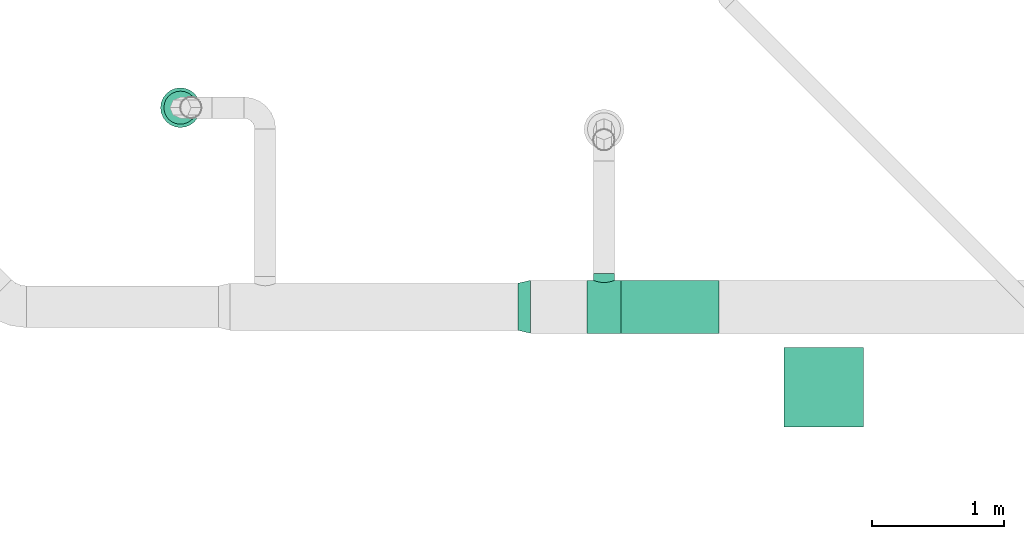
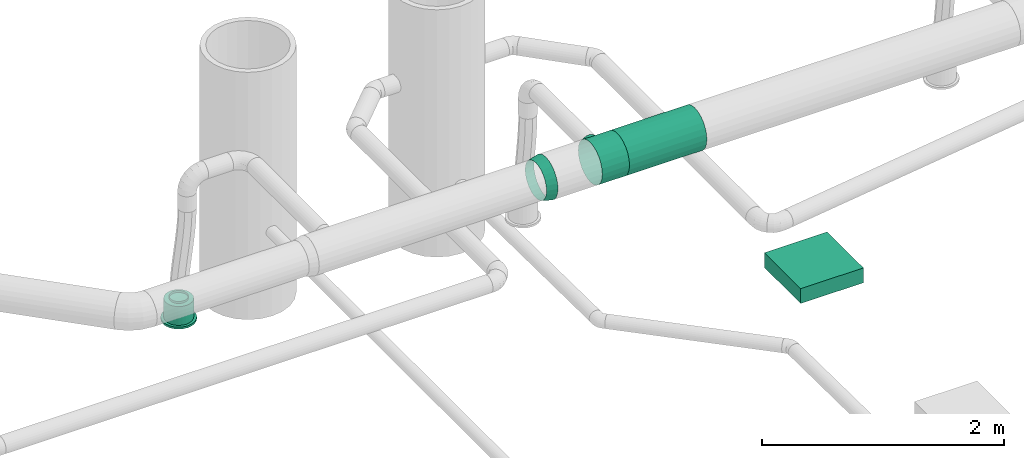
# One storey, part 145 of 374: 2 flow fittings, 1 distribution element, 1 flow segment, 1 flow terminal.
"""IFC2X3 building model written with IfcOpenShell, lengths in metres."""

from ifc_helpers import new_model, si_unit, direction, frame, frame_2d, origin, place, context, subcontext, project, spatial, rectangle, extrude, open_shell, surface_model, source, transform, mapped, element, save


model = new_model("IFC2X3")

# Units and contexts
model_context = context("Model", 3, precision=1e-05, world=origin(), true_north=direction((-0.4480736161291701, 0.8939966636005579)))
body_context = subcontext(model_context, "Body", "Model", "MODEL_VIEW")
ifc_project = project(units=[si_unit("LENGTHUNIT", "METRE"), si_unit("AREAUNIT", "SQUARE_METRE"), si_unit("VOLUMEUNIT", "CUBIC_METRE"), si_unit("PLANEANGLEUNIT", "RADIAN"), si_unit("THERMODYNAMICTEMPERATUREUNIT", "KELVIN"), si_unit("MASSUNIT", "GRAM", prefix="KILO"), si_unit("TIMEUNIT", "SECOND")], contexts=[model_context])

# Site, building, storey
site_placement = place(None, origin())
site = spatial("IfcSite", under=ifc_project, at=site_placement, Name="Site 1", CompositionType="ELEMENT")
building_placement = place(site_placement, origin())
building = spatial("IfcBuilding", under=site, at=building_placement, Name="Undefined", CompositionType="ELEMENT")
storey_placement = place(building_placement, origin())
storey = spatial("IfcBuildingStorey", under=building, at=storey_placement, Name="Rez de chauss\x8ee", CompositionType="ELEMENT", Elevation=0.0)

# Flow terminal
shared_shape_1 = source(origin(), body_context, "Body", "SurfaceModel", [
    surface_model("IfcFaceBasedSurfaceModel", [(0.0, 0.0, 0.0), (0.03915785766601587, 0.0, 0.0), (0.03915785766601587, 0.020000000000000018, 0.0), (3.552713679e-15, 0.020000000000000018, 0.0), (0.07698144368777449, 0.0, -0.010134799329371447), (0.07698144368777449, 0.020000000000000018, -0.010134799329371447), (0.11089314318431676, 0.0, -0.02971372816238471), (0.11089314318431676, 0.020000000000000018, -0.02971372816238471), (0.13858192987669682, 0.0, -0.05740251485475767), (0.13858192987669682, 0.020000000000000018, -0.05740251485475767), (0.15816085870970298, 0.0, -0.09131421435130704), (0.15816085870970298, 0.020000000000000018, -0.09131421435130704), (0.16829565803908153, 0.0, -0.12913780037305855), (0.16829565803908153, 0.020000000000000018, -0.12913780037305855), (0.16829565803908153, 0.0, -0.16829565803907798), (0.16829565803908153, 0.020000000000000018, -0.16829565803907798), (0.15816085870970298, 0.0, -0.20611924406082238), (0.15816085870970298, 0.020000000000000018, -0.20611924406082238), (0.13858192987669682, 0.0, -0.24003094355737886), (0.13858192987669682, 0.020000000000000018, -0.24003094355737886), (0.11089314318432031, 0.0, -0.2677197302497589), (0.11089314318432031, 0.020000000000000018, -0.2677197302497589), (0.07698144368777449, 0.0, -0.2872986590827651), (0.07698144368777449, 0.020000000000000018, -0.2872986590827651), (0.039157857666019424, 0.0, -0.29743345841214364), (0.039157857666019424, 0.020000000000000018, -0.29743345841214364), (3.552713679e-15, 0.0, -0.29743345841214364), (3.552713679e-15, 0.020000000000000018, -0.29743345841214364), (-0.03782358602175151, 0.0, -0.2872986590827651), (-0.03782358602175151, 0.020000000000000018, -0.2872986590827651), (-0.07173528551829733, 0.0, -0.2677197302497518), (-0.07173528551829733, 0.020000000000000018, -0.2677197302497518), (-0.0994240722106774, 0.0, -0.24003094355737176), (-0.0994240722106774, 0.020000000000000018, -0.24003094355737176), (-0.11900300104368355, 0.0, -0.2061192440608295), (-0.11900300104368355, 0.020000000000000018, -0.2061192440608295), (-0.1291378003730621, 0.0, -0.16829565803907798), (-0.1291378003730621, 0.020000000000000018, -0.16829565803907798), (-0.1291378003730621, 0.0, -0.12913780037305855), (-0.1291378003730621, 0.020000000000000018, -0.12913780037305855), (-0.11900300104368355, 0.0, -0.09131421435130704), (-0.11900300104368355, 0.020000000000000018, -0.09131421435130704), (-0.0994240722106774, 0.0, -0.05740251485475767), (-0.0994240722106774, 0.020000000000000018, -0.05740251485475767), (-0.07173528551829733, 0.0, -0.029713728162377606), (-0.07173528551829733, 0.020000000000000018, -0.029713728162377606), (-0.03782358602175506, 0.0, -0.010134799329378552), (-0.03782358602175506, 0.020000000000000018, -0.010134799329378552), (0.019578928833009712, 0.0, -0.14871672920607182), (0.019578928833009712, 0.020000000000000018, -0.14871672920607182), (0.003263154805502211, 0.020000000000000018, -0.02478612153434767), (0.035894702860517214, 0.020000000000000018, -0.02478612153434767), (0.035894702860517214, 0.20999999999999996, -0.02478612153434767), (0.003263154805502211, 0.20999999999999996, -0.02478612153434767), (0.06741435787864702, 0.020000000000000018, -0.033231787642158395), (0.06741435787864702, 0.20999999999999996, -0.033231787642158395), (0.0956741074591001, 0.020000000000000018, -0.04954756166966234), (0.0956741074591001, 0.20999999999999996, -0.04954756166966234), (0.11874809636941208, 0.020000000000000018, -0.07262155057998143), (0.11874809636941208, 0.20999999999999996, -0.07262155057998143), (0.13506387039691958, 0.020000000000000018, -0.10088130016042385), (0.13506387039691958, 0.20999999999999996, -0.10088130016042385), (0.1435095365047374, 0.020000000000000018, -0.13240095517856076), (0.1435095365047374, 0.20999999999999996, -0.13240095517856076), (0.1435095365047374, 0.020000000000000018, -0.16503250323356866), (0.1435095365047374, 0.20999999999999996, -0.16503250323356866), (0.13506387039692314, 0.020000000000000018, -0.19655215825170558), (0.13506387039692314, 0.20999999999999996, -0.19655215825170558), (0.11874809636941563, 0.020000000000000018, -0.2248119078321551), (0.11874809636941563, 0.20999999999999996, -0.2248119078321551), (0.09567410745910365, 0.020000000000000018, -0.24788589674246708), (0.09567410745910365, 0.20999999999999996, -0.24788589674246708), (0.06741435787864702, 0.020000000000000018, -0.26420167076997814), (0.06741435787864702, 0.20999999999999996, -0.26420167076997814), (0.035894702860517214, 0.020000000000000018, -0.27264733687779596), (0.035894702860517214, 0.20999999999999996, -0.27264733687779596), (0.0032631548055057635, 0.020000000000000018, -0.27264733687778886), (0.0032631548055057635, 0.20999999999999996, -0.27264733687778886), (-0.028256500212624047, 0.020000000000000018, -0.26420167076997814), (-0.028256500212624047, 0.20999999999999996, -0.26420167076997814), (-0.05651624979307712, 0.020000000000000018, -0.2478858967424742), (-0.05651624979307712, 0.20999999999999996, -0.2478858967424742), (-0.07959023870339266, 0.020000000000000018, -0.2248119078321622), (-0.07959023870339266, 0.20999999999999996, -0.2248119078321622), (-0.09590601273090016, 0.020000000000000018, -0.19655215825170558), (-0.09590601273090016, 0.20999999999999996, -0.19655215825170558), (-0.10435167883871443, 0.020000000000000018, -0.16503250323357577), (-0.10435167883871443, 0.20999999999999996, -0.16503250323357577), (-0.10435167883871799, 0.020000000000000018, -0.13240095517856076), (-0.10435167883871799, 0.20999999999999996, -0.13240095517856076), (-0.09590601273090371, 0.020000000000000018, -0.10088130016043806), (-0.09590601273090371, 0.20999999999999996, -0.10088130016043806), (-0.07959023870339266, 0.020000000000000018, -0.07262155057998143), (-0.07959023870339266, 0.20999999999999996, -0.07262155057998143), (-0.056516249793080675, 0.020000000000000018, -0.04954756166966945), (-0.056516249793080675, 0.20999999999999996, -0.04954756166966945), (-0.028256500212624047, 0.020000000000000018, -0.033231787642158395), (-0.028256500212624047, 0.20999999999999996, -0.033231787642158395), (0.019578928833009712, 0.20999999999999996, -0.14871672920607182), (0.009136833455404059, 0.20999999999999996, -0.06940114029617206), (0.030021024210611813, 0.20999999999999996, -0.06940114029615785), (0.030021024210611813, 0.22999999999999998, -0.06940114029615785), (0.009136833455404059, 0.22999999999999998, -0.06940114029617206), (0.05019360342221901, 0.20999999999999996, -0.07480636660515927), (0.05019360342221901, 0.22999999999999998, -0.07480636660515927), (0.06827984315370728, 0.20999999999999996, -0.08524846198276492), (0.06827984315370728, 0.22999999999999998, -0.08524846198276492), (0.0830471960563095, 0.20999999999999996, -0.10001581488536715), (0.0830471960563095, 0.22999999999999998, -0.10001581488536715), (0.0934892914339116, 0.20999999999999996, -0.11810205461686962), (0.0934892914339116, 0.22999999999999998, -0.11810205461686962), (0.09889451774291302, 0.20999999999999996, -0.13827463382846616), (0.09889451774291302, 0.22999999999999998, -0.13827463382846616), (0.09889451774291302, 0.20999999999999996, -0.15915882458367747), (0.09889451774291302, 0.22999999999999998, -0.15915882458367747), (0.09348929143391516, 0.20999999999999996, -0.179331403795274), (0.09348929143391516, 0.22999999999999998, -0.179331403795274), (0.0830471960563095, 0.20999999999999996, -0.19741764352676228), (0.0830471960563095, 0.22999999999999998, -0.19741764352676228), (0.06827984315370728, 0.20999999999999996, -0.2121849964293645), (0.06827984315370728, 0.22999999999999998, -0.2121849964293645), (0.05019360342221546, 0.20999999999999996, -0.22262709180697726), (0.05019360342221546, 0.22999999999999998, -0.22262709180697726), (0.030021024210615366, 0.20999999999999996, -0.22803231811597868), (0.030021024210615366, 0.22999999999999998, -0.22803231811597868), (0.009136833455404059, 0.20999999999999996, -0.22803231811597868), (0.009136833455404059, 0.22999999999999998, -0.22803231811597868), (-0.011035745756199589, 0.20999999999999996, -0.22262709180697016), (-0.011035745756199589, 0.22999999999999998, -0.22262709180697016), (-0.0291219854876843, 0.20999999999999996, -0.2121849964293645), (-0.0291219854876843, 0.22999999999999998, -0.2121849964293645), (-0.043889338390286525, 0.20999999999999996, -0.19741764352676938), (-0.043889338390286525, 0.22999999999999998, -0.19741764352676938), (-0.05433143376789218, 0.20999999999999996, -0.17933140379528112), (-0.05433143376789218, 0.22999999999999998, -0.17933140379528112), (-0.05973666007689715, 0.20999999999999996, -0.15915882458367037), (-0.05973666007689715, 0.22999999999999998, -0.15915882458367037), (-0.0597366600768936, 0.20999999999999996, -0.13827463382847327), (-0.0597366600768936, 0.22999999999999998, -0.13827463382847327), (-0.05433143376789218, 0.20999999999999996, -0.11810205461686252), (-0.05433143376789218, 0.22999999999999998, -0.11810205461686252), (-0.043889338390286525, 0.20999999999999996, -0.10001581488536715), (-0.043889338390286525, 0.22999999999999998, -0.10001581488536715), (-0.02912198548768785, 0.20999999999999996, -0.08524846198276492), (-0.02912198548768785, 0.22999999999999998, -0.08524846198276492), (-0.011035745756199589, 0.20999999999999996, -0.07480636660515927), (-0.011035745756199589, 0.22999999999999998, -0.07480636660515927)], [open_shell([[[0, 1, 2, 3]], [[1, 4, 5, 2]], [[4, 6, 7, 5]], [[6, 8, 9, 7]], [[8, 10, 11, 9]], [[10, 12, 13, 11]], [[12, 14, 15, 13]], [[14, 16, 17, 15]], [[16, 18, 19, 17]], [[18, 20, 21, 19]], [[20, 22, 23, 21]], [[22, 24, 25, 23]], [[24, 26, 27, 25]], [[26, 28, 29, 27]], [[28, 30, 31, 29]], [[30, 32, 33, 31]], [[32, 34, 35, 33]], [[34, 36, 37, 35]], [[36, 38, 39, 37]], [[38, 40, 41, 39]], [[40, 42, 43, 41]], [[42, 44, 45, 43]], [[44, 46, 47, 45]], [[46, 0, 3, 47]], [[48, 1, 0]], [[48, 4, 1]], [[48, 6, 4]], [[48, 8, 6]], [[48, 10, 8]], [[48, 12, 10]], [[48, 14, 12]], [[48, 16, 14]], [[48, 18, 16]], [[48, 20, 18]], [[48, 22, 20]], [[48, 24, 22]], [[48, 26, 24]], [[48, 28, 26]], [[48, 30, 28]], [[48, 32, 30]], [[48, 34, 32]], [[48, 36, 34]], [[48, 38, 36]], [[48, 40, 38]], [[48, 42, 40]], [[48, 44, 42]], [[48, 46, 44]], [[48, 0, 46]], [[49, 47, 3]], [[49, 45, 47]], [[49, 43, 45]], [[49, 41, 43]], [[49, 39, 41]], [[49, 37, 39]], [[49, 35, 37]], [[49, 33, 35]], [[49, 31, 33]], [[49, 29, 31]], [[49, 27, 29]], [[49, 25, 27]], [[49, 23, 25]], [[49, 21, 23]], [[49, 19, 21]], [[49, 17, 19]], [[49, 15, 17]], [[49, 13, 15]], [[49, 11, 13]], [[49, 9, 11]], [[49, 7, 9]], [[49, 5, 7]], [[49, 2, 5]], [[49, 3, 2]], [[50, 51, 52, 53]], [[51, 54, 55, 52]], [[54, 56, 57, 55]], [[56, 58, 59, 57]], [[58, 60, 61, 59]], [[60, 62, 63, 61]], [[62, 64, 65, 63]], [[64, 66, 67, 65]], [[66, 68, 69, 67]], [[68, 70, 71, 69]], [[70, 72, 73, 71]], [[72, 74, 75, 73]], [[74, 76, 77, 75]], [[76, 78, 79, 77]], [[78, 80, 81, 79]], [[80, 82, 83, 81]], [[82, 84, 85, 83]], [[84, 86, 87, 85]], [[86, 88, 89, 87]], [[88, 90, 91, 89]], [[90, 92, 93, 91]], [[92, 94, 95, 93]], [[94, 96, 97, 95]], [[96, 50, 53, 97]], [[49, 51, 50]], [[49, 54, 51]], [[49, 56, 54]], [[49, 58, 56]], [[49, 60, 58]], [[49, 62, 60]], [[49, 64, 62]], [[49, 66, 64]], [[49, 68, 66]], [[49, 70, 68]], [[49, 72, 70]], [[49, 74, 72]], [[49, 76, 74]], [[49, 78, 76]], [[49, 80, 78]], [[49, 82, 80]], [[49, 84, 82]], [[49, 86, 84]], [[49, 88, 86]], [[49, 90, 88]], [[49, 92, 90]], [[49, 94, 92]], [[49, 96, 94]], [[49, 50, 96]], [[98, 97, 53]], [[98, 95, 97]], [[98, 93, 95]], [[98, 91, 93]], [[98, 89, 91]], [[98, 87, 89]], [[98, 85, 87]], [[98, 83, 85]], [[98, 81, 83]], [[98, 79, 81]], [[98, 77, 79]], [[98, 75, 77]], [[98, 73, 75]], [[98, 71, 73]], [[98, 69, 71]], [[98, 67, 69]], [[98, 65, 67]], [[98, 63, 65]], [[98, 61, 63]], [[98, 59, 61]], [[98, 57, 59]], [[98, 55, 57]], [[98, 52, 55]], [[98, 53, 52]], [[99, 100, 101, 102]], [[100, 103, 104, 101]], [[103, 105, 106, 104]], [[105, 107, 108, 106]], [[107, 109, 110, 108]], [[109, 111, 112, 110]], [[111, 113, 114, 112]], [[113, 115, 116, 114]], [[115, 117, 118, 116]], [[117, 119, 120, 118]], [[119, 121, 122, 120]], [[121, 123, 124, 122]], [[123, 125, 126, 124]], [[125, 127, 128, 126]], [[127, 129, 130, 128]], [[129, 131, 132, 130]], [[131, 133, 134, 132]], [[133, 135, 136, 134]], [[135, 137, 138, 136]], [[137, 139, 140, 138]], [[139, 141, 142, 140]], [[141, 143, 144, 142]], [[143, 145, 146, 144]], [[145, 99, 102, 146]]])]),
])
flow_terminal_placement = place(storey_placement, origin())
element("IfcFlowTerminal", 1, at=flow_terminal_placement, inside=storey, Name="Air diffuseur - bouche", ObjectType="Air diffuseur - bouche", context=body_context, shape_type="MappedRepresentation", body=[
    mapped(shared_shape_1, transform((31.245737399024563, 22.029995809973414, 2.38), x_axis=(-0.13052619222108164, 0.9914448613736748, 0.0), y_axis=(0.0, 0.0, 1.0), z_axis=(0.9914448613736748, 0.13052619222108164, 0.0))),
])

# Flow fittings
shared_shape_2 = source(origin(), body_context, "Body", "SurfaceModel", [
    surface_model("IfcFaceBasedSurfaceModel", [(0.0, 0.05221047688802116, -8.8817842e-16), (0.0, 0.0, 0.0), (0.2599999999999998, -7.105427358e-15, 0.0), (0.2599999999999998, 0.05221047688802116, -8.8817842e-16), (0.0, -0.05043144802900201, -0.013513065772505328), (0.2599999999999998, -0.05043144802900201, -0.013513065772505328), (0.0, -0.09564704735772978, -0.0396183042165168), (0.2599999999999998, -0.09564704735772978, -0.0396183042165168), (0.0, -0.1325654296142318, -0.07653668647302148), (0.2599999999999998, -0.1325654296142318, -0.07653668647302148), (0.0, -0.15867066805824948, -0.12175228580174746), (0.2599999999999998, -0.15867066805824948, -0.12175228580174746), (0.0, -0.17218373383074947, -0.17218373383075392), (0.2599999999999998, -0.17218373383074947, -0.17218373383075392), (0.0, -0.17218373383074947, -0.22439421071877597), (0.2599999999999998, -0.17218373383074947, -0.22439421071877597), (0.0, -0.15867066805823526, -0.2748256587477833), (0.2599999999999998, -0.15867066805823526, -0.2748256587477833), (0.0, -0.1325654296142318, -0.3200412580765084), (0.2599999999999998, -0.1325654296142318, -0.3200412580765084), (0.0, -0.09564704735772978, -0.35695964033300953), (0.2599999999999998, -0.09564704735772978, -0.35695964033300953), (0.0, -0.050431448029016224, -0.3830648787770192), (0.2599999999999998, -0.050431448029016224, -0.3830648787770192), (0.0, 0.0, -0.39657794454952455), (0.2599999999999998, 0.0, -0.39657794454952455), (0.0, 0.05221047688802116, -0.3965779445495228), (0.2599999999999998, 0.05221047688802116, -0.3965779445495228), (0.0, 0.10264192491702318, -0.38306487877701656), (0.2599999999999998, 0.10264192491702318, -0.38306487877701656), (0.0, 0.14785752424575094, -0.356959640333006), (0.2599999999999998, 0.14785752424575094, -0.356959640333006), (0.0, 0.18477590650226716, -0.32004125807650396), (0.2599999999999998, 0.18477590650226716, -0.32004125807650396), (0.0, 0.21088114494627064, -0.2748256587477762), (0.2599999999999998, 0.21088114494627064, -0.2748256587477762), (0.0, 0.22439421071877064, -0.22439421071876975), (0.2599999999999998, 0.22439421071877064, -0.22439421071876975), (0.0, 0.22439421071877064, -0.1721837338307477), (0.2599999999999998, 0.22439421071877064, -0.1721837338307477), (0.0, 0.21088114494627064, -0.12175228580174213), (0.2599999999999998, 0.21088114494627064, -0.12175228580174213), (0.0, 0.18477590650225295, -0.07653668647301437), (0.2599999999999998, 0.18477590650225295, -0.07653668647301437), (0.0, 0.14785752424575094, -0.03961830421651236), (0.2599999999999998, 0.14785752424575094, -0.03961830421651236), (0.0, 0.10264192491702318, -0.013513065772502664), (0.2599999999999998, 0.10264192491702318, -0.013513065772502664), (0.20999999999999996, 0.22439421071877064, -0.22439421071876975), (0.2072740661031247, 0.2206261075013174, -0.24478232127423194), (0.2072740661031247, 0.2712638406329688, -0.2514489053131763), (0.20999999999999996, 0.273966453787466, -0.23092052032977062), (0.19928203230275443, 0.21516691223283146, -0.263524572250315), (0.19928203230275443, 0.2687454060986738, -0.27057831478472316), (0.18656854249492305, 0.20891366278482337, -0.2794128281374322), (0.18656854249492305, 0.2665827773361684, -0.2870051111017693), (0.16999999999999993, 0.20307366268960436, -0.291467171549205), (0.16999999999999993, 0.26492333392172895, -0.29960983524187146), (0.15070552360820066, 0.19890954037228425, -0.2989799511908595), (0.15070552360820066, 0.26388016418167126, -0.307533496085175), (0.1299999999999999, 0.19739798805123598, -0.3015304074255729), (0.1299999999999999, 0.26352435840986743, -0.3102361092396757), (0.10929447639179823, 0.19890954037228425, -0.2989799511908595), (0.10929447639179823, 0.26388016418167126, -0.307533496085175), (0.08999999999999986, 0.20307366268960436, -0.291467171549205), (0.08999999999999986, 0.26492333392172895, -0.29960983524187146), (0.07343145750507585, 0.20891366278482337, -0.2794128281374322), (0.07343145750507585, 0.2665827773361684, -0.2870051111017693), (0.06071796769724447, 0.21516691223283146, -0.263524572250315), (0.06071796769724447, 0.2687454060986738, -0.27057831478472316), (0.05272593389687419, 0.2206261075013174, -0.24478232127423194), (0.05272593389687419, 0.2712638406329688, -0.2514489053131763), (0.04999999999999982, 0.22439421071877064, -0.22439421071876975), (0.04999999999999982, 0.273966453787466, -0.23092052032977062), (0.05272593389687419, 0.22603133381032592, -0.20372555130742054), (0.05272593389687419, 0.27666906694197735, -0.21039213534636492), (0.06071796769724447, 0.22560900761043, -0.18420898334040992), (0.06071796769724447, 0.27918750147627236, -0.19126272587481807), (0.07343145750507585, 0.2236810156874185, -0.16724364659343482), (0.07343145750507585, 0.28135013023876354, -0.17483592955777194), (0.08999999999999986, 0.22115990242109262, -0.1540885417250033), (0.08999999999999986, 0.2830095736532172, -0.16223120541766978), (0.10929447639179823, 0.2190821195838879, -0.14575399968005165), (0.10929447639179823, 0.2840527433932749, -0.15430754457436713), (0.1299999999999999, 0.2182821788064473, -0.14289922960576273), (0.1299999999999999, 0.28440854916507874, -0.15160493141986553), (0.15070552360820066, 0.2190821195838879, -0.14575399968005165), (0.15070552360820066, 0.2840527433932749, -0.15430754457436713), (0.16999999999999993, 0.22115990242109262, -0.1540885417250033), (0.16999999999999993, 0.2830095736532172, -0.16223120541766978), (0.18656854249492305, 0.2236810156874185, -0.16724364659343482), (0.18656854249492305, 0.28135013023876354, -0.17483592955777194), (0.19928203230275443, 0.22560900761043, -0.18420898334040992), (0.19928203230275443, 0.27918750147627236, -0.19126272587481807), (0.2072740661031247, 0.22603133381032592, -0.20372555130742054), (0.2072740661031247, 0.27666906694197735, -0.21039213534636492)], [open_shell([[[0, 1, 2, 3]], [[1, 4, 5, 2]], [[4, 6, 7, 5]], [[6, 8, 9, 7]], [[8, 10, 11, 9]], [[10, 12, 13, 11]], [[12, 14, 15, 13]], [[14, 16, 17, 15]], [[16, 18, 19, 17]], [[18, 20, 21, 19]], [[20, 22, 23, 21]], [[22, 24, 25, 23]], [[24, 26, 27, 25]], [[26, 28, 29, 27]], [[28, 30, 31, 29]], [[30, 32, 33, 31]], [[32, 34, 35, 33]], [[34, 36, 37, 35]], [[36, 38, 39, 37]], [[38, 40, 41, 39]], [[40, 42, 43, 41]], [[42, 44, 45, 43]], [[44, 46, 47, 45]], [[46, 0, 3, 47]], [[48, 49, 50, 51]], [[49, 52, 53, 50]], [[52, 54, 55, 53]], [[54, 56, 57, 55]], [[56, 58, 59, 57]], [[58, 60, 61, 59]], [[60, 62, 63, 61]], [[62, 64, 65, 63]], [[64, 66, 67, 65]], [[66, 68, 69, 67]], [[68, 70, 71, 69]], [[70, 72, 73, 71]], [[72, 74, 75, 73]], [[74, 76, 77, 75]], [[76, 78, 79, 77]], [[78, 80, 81, 79]], [[80, 82, 83, 81]], [[82, 84, 85, 83]], [[84, 86, 87, 85]], [[86, 88, 89, 87]], [[88, 90, 91, 89]], [[90, 92, 93, 91]], [[92, 94, 95, 93]], [[94, 48, 51, 95]]])]),
])
flow_fitting_1_placement = place(storey_placement, origin())
element("IfcFlowFitting", 2, at=flow_fitting_1_placement, inside=storey, Name="Pièce en té 90°", ObjectType="Pièce en té 90°", context=body_context, shape_type="MappedRepresentation", body=[
    mapped(shared_shape_2, transform((34.163289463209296, 20.475124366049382, 3.9931851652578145), x_axis=(1.0, 0.0, 0.0), y_axis=(0.0, 0.9914448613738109, 0.1305261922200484), z_axis=(0.0, -0.1305261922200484, 0.9914448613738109))),
])
shared_shape_3 = source(origin(), body_context, "Body", "SurfaceModel", [
    surface_model("IfcFaceBasedSurfaceModel", [(0.0015398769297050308, 0.05218776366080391, 1.776356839e-15), (0.0, 0.0, 0.0), (0.09957534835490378, 8.8817842e-16, 1.776356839e-15), (0.10094198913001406, 0.04631664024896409, 1.776356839e-15), (0.0015398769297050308, -0.05049883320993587, -0.013169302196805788), (0.10094198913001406, -0.04481771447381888, -0.011687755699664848), (0.006054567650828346, -0.09586732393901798, -0.038610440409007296), (0.10494877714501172, -0.0850822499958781, -0.03426676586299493), (0.013236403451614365, -0.13301368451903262, -0.07458964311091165), (0.11132265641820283, -0.11804964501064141, -0.0661983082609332), (0.02259595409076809, -0.15940645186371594, -0.11865498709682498), (0.1196292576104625, -0.14147322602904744, -0.10530630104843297), (0.033495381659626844, -0.17324700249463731, -0.16780349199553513), (0.12930249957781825, -0.15375671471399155, -0.14892559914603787), (0.04519190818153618, -0.17359212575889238, -0.21868576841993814), (0.13968316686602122, -0.15406301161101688, -0.1940836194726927), (0.05688843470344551, -0.16041830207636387, -0.2678342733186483), (0.15006383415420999, -0.14237124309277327, -0.23770291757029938), (0.06778786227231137, -0.13462330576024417, -0.3118996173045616), (0.15973707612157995, -0.11947818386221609, -0.27681091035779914), (0.0771474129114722, -0.0979650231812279, -0.3478788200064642), (0.16804367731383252, -0.08694395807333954, -0.3087424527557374), (0.08432924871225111, -0.05294165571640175, -0.3733199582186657), (0.17441755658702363, -0.04698571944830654, -0.3313214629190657), (0.08884393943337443, -0.0026214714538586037, -0.3864892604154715), (0.17842434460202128, -0.002326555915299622, -0.34300921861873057), (0.09038381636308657, 0.049566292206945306, -0.3864892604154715), (0.17979098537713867, 0.04399008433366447, -0.34300921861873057), (0.08884393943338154, 0.10006512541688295, -0.3733199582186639), (0.17842434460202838, 0.08880779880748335, -0.33132146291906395), (0.08432924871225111, 0.14543361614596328, -0.3478788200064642), (0.17441755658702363, 0.12907233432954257, -0.30874245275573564), (0.0771474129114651, 0.1825799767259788, -0.31189961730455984), (0.16804367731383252, 0.16203972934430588, -0.2768109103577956), (0.06778786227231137, 0.20897274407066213, -0.26783427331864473), (0.15973707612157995, 0.1854633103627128, -0.23770291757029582), (0.05688843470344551, 0.2228132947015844, -0.2186857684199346), (0.15006383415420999, 0.19774679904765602, -0.1940836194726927), (0.04519190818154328, 0.22315841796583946, -0.16780349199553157), (0.13968316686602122, 0.19805309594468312, -0.14892559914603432), (0.03349538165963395, 0.20998459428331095, -0.1186549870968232), (0.12930249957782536, 0.18636132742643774, -0.10530630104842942), (0.02259595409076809, 0.18418959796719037, -0.0745896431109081), (0.1196292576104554, 0.16346826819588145, -0.06619830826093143), (0.013236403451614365, 0.147531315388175, -0.03861044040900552), (0.11132265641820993, 0.1309340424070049, -0.03426676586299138), (0.006054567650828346, 0.10250794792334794, -0.013169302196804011), (0.10494877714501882, 0.09097580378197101, -0.011687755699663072)], [open_shell([[[0, 1, 2, 3]], [[1, 4, 5, 2]], [[4, 6, 7, 5]], [[6, 8, 9, 7]], [[8, 10, 11, 9]], [[10, 12, 13, 11]], [[12, 14, 15, 13]], [[14, 16, 17, 15]], [[16, 18, 19, 17]], [[18, 20, 21, 19]], [[20, 22, 23, 21]], [[22, 24, 25, 23]], [[24, 26, 27, 25]], [[26, 28, 29, 27]], [[28, 30, 31, 29]], [[30, 32, 33, 31]], [[32, 34, 35, 33]], [[34, 36, 37, 35]], [[36, 38, 39, 37]], [[38, 40, 41, 39]], [[40, 42, 43, 41]], [[42, 44, 45, 43]], [[44, 46, 47, 45]], [[46, 0, 3, 47]]])]),
])
flow_fitting_2_placement = place(storey_placement, origin())
element("IfcFlowFitting", 3, at=flow_fitting_2_placement, inside=storey, Name="Réduction conique", ObjectType="Réduction conique", context=body_context, shape_type="MappedRepresentation", body=[
    mapped(shared_shape_3, transform((33.739506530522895, 20.7200733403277, 3.7482361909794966), x_axis=(-0.9741366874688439, -0.2182601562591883, 0.05848263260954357), y_axis=(0.02874333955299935, 0.13702308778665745, 0.9901507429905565), z_axis=(-0.22412392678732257, 0.9662231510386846, -0.12720569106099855))),
])

# Flow segment
shared_shape_4 = source(origin(), body_context, "Body", "SurfaceModel", [
    surface_model("IfcFaceBasedSurfaceModel", [(0.0, 0.05221047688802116, -8.8817842e-16), (0.0, 0.0, 0.0), (0.7399999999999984, 0.0, 0.0), (0.7400000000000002, 0.05221047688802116, 8.8817842e-16), (0.0, -0.05043144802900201, -0.013513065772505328), (0.7400000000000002, -0.05043144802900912, -0.01351306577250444), (0.0, -0.09564704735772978, -0.0396183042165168), (0.7400000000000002, -0.09564704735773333, -0.03961830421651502), (0.0, -0.1325654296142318, -0.07653668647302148), (0.7400000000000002, -0.1325654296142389, -0.07653668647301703), (0.0, -0.15867066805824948, -0.12175228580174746), (0.7400000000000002, -0.15867066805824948, -0.12175228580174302), (0.0, -0.17218373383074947, -0.17218373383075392), (0.7400000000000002, -0.17218373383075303, -0.17218373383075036), (0.0, -0.17218373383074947, -0.22439421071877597), (0.7400000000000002, -0.17218373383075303, -0.22439421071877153), (0.0, -0.15867066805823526, -0.2748256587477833), (0.7400000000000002, -0.15867066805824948, -0.27482565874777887), (0.0, -0.1325654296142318, -0.3200412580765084), (0.7400000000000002, -0.1325654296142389, -0.32004125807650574), (0.0, -0.09564704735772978, -0.35695964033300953), (0.7400000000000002, -0.09564704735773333, -0.35695964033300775), (0.0, -0.050431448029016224, -0.3830648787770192), (0.7400000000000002, -0.05043144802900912, -0.38306487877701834), (0.0, 0.0, -0.39657794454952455), (0.7400000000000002, 0.0, -0.3965779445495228), (0.0, 0.05221047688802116, -0.3965779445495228), (0.7400000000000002, 0.05221047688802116, -0.39657794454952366), (0.0, 0.10264192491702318, -0.38306487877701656), (0.7400000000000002, 0.10264192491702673, -0.38306487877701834), (0.0, 0.14785752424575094, -0.356959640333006), (0.7400000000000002, 0.14785752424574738, -0.35695964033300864), (0.0, 0.18477590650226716, -0.32004125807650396), (0.7400000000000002, 0.1847759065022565, -0.32004125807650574), (0.0, 0.21088114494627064, -0.2748256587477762), (0.7400000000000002, 0.21088114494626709, -0.27482565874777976), (0.0, 0.22439421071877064, -0.22439421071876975), (0.7400000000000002, 0.2243942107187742, -0.22439421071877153), (0.0, 0.22439421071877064, -0.1721837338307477), (0.7400000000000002, 0.22439421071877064, -0.17218373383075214), (0.0, 0.21088114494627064, -0.12175228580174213), (0.7400000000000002, 0.21088114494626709, -0.12175228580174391), (0.0, 0.18477590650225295, -0.07653668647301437), (0.7400000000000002, 0.18477590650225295, -0.07653668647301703), (0.0, 0.14785752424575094, -0.03961830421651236), (0.7400000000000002, 0.14785752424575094, -0.03961830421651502), (0.0, 0.10264192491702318, -0.013513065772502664), (0.7400000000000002, 0.10264192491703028, -0.01351306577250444)], [open_shell([[[0, 1, 2, 3]], [[1, 4, 5, 2]], [[4, 6, 7, 5]], [[6, 8, 9, 7]], [[8, 10, 11, 9]], [[10, 12, 13, 11]], [[12, 14, 15, 13]], [[14, 16, 17, 15]], [[16, 18, 19, 17]], [[18, 20, 21, 19]], [[20, 22, 23, 21]], [[22, 24, 25, 23]], [[24, 26, 27, 25]], [[26, 28, 29, 27]], [[28, 30, 31, 29]], [[30, 32, 33, 31]], [[32, 34, 35, 33]], [[34, 36, 37, 35]], [[36, 38, 39, 37]], [[38, 40, 41, 39]], [[40, 42, 43, 41]], [[42, 44, 45, 43]], [[44, 46, 47, 45]], [[46, 0, 3, 47]]])]),
])
flow_segment_placement = place(storey_placement, origin())
element("IfcFlowSegment", 4, at=flow_segment_placement, inside=storey, Name="Tube", ObjectType="Tube", context=body_context, shape_type="MappedRepresentation", body=[
    mapped(shared_shape_4, transform((35.163289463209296, 20.57865198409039, 3.9931851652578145), x_axis=(-1.0, 0.0, 0.0), y_axis=(7.266545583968e-12, -0.9914448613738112, 0.13052619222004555), z_axis=(0.0, 0.13052619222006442, 0.9914448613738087))),
])

# Distribution element
distribution_element_placement = place(storey_placement, origin())
element("IfcDistributionElement", 5, at=distribution_element_placement, inside=storey, Name="Decken-Rechteckleuchte mit Rahmen AP", ObjectType="Decken-Rechteckleuchte mit Rahmen AP", context=body_context, shape_type="SweptSolid", body=[
    extrude(rectangle(XDim=0.6000000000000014, YDim=0.6000000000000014, at=frame_2d((3.552713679e-15, 0.0), x_axis=(0.0, 1.0))), frame((35.95181062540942, 19.920550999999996, 2.5500000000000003), z_axis=(0.0, 0.0, -1.0), x_axis=(1.0, 0.0, 0.0)), (0.0, 0.0, 1.0), 0.15),
])

save(model, "model.ifc")
